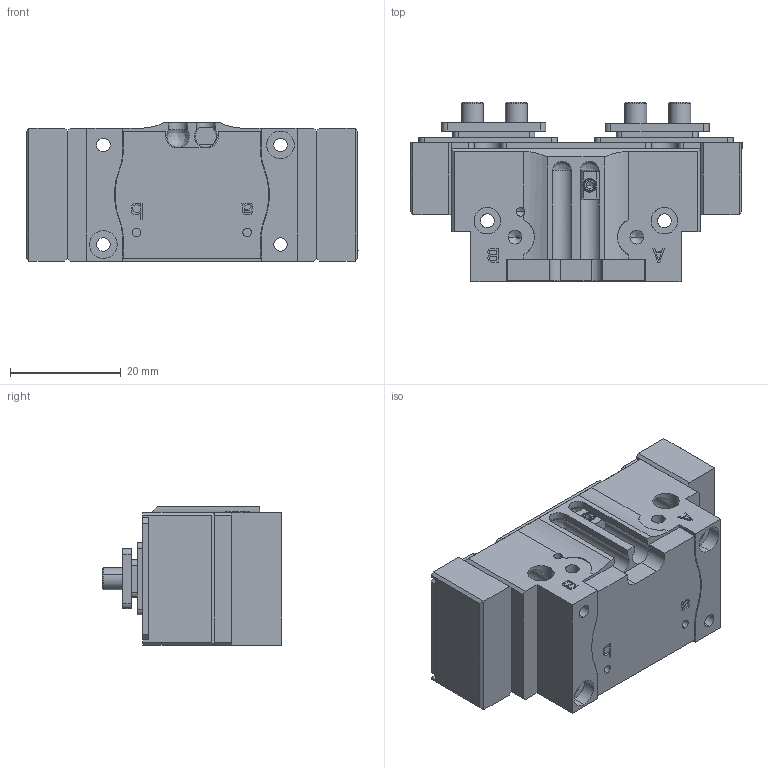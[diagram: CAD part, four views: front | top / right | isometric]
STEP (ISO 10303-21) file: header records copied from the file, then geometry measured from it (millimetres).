
FILE_DESCRIPTION (( 'STEP AP214' ), '1' );
FILE_NAME ('FPT40A-1-sd.STEP', '2021-09-18T00:37:57', ( 'DEEP' ), ( 'Microsoft' ), 'SwSTEP 2.0', 'SolidWorks 2016', '' );
FILE_SCHEMA (( 'AUTOMOTIVE_DESIGN' ));
Length unit declared in the file: millimetre
Products named in the file (27): FPT 40A-1-SD-001; FPT40A-1-003; FPT40A-1-004; FPT40A-1-002; FPT40A-1-001; FPT40A-1-sd; 1瘍隅弇杶-SD; FPT 40A-1-SD-002; FPT 40A-1-SD-004; FPT 40A-1-SD-003
Assembly tree (17 placements, depth 3):
  FPT 40A-1-SD-001
  FPT40A-1-003
  FPT40A-1-003
  FPT40A-1-004
  FPT40A-1-002
Bounding box: 60 x 32.4 x 25 mm (x, y, z)
Volume: 28321.3 mm3; surface area: 20187.4 mm2
Topology: 16 solids, 16 shells, 691 faces, 1818 edges, 1160 vertices
Faces by surface type: plane 397, cylinder 214, cone 78, bspline 2
Entity records: 20037 total; most frequent: CARTESIAN_POINT 3359, DIRECTION 3001, ORIENTED_EDGE 2990, EDGE_CURVE 1495, VECTOR 1085, LINE 1085, VERTEX_POINT 974, AXIS2_PLACEMENT_3D 958
